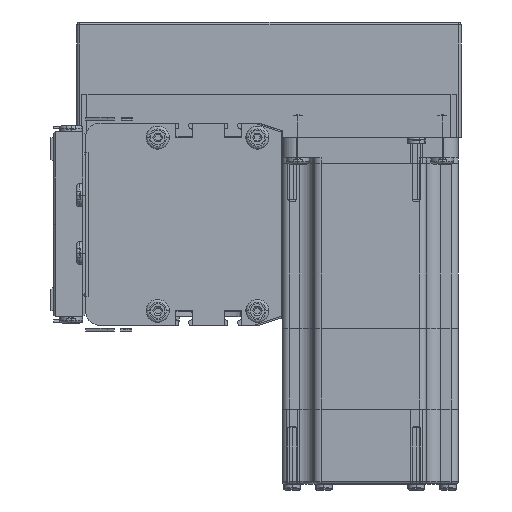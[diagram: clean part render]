
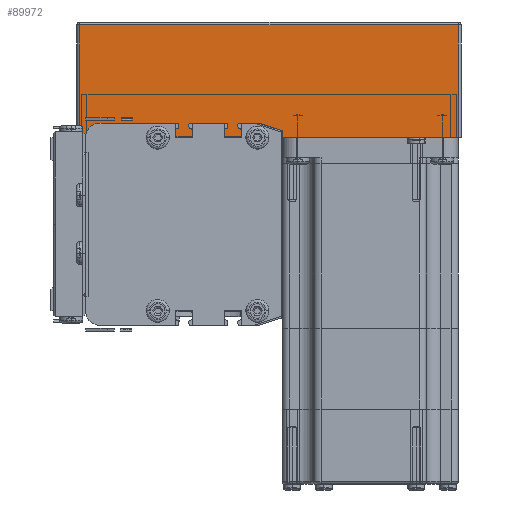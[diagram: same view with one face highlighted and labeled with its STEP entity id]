
A CAD part, left-side view. The second image highlights one B-rep face of the part: STEP entity #89972.
In plain terms, the highlighted planar face has unit normal (-1, 0, 0) as drawn and (0, 1, 0) by its records, which use the part's own axes.
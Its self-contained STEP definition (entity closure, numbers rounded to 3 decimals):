
#89364 = EDGE_CURVE ( 'NONE', #89558, #89466, #110685, .T. ) ;
#89466 = VERTEX_POINT ( 'NONE', #111102 ) ;
#89558 = VERTEX_POINT ( 'NONE', #111284 ) ;
#89587 = EDGE_CURVE ( 'NONE', #89466, #89734, #111351, .T. ) ;
#89623 = ORIENTED_EDGE ( 'NONE', *, *, #89364, .T. ) ;
#89630 = ORIENTED_EDGE ( 'NONE', *, *, #89587, .T. ) ;
#89734 = VERTEX_POINT ( 'NONE', #111717 ) ;
#89763 = EDGE_LOOP ( 'NONE', ( #89785, #89974, #89623, #89630 ) ) ;
#89774 = EDGE_CURVE ( 'NONE', #89820, #89558, #111807, .T. ) ;
#89785 = ORIENTED_EDGE ( 'NONE', *, *, #89812, .T. ) ;
#89812 = EDGE_CURVE ( 'NONE', #89734, #89820, #111955, .T. ) ;
#89820 = VERTEX_POINT ( 'NONE', #111949 ) ;
#89972 = ADVANCED_FACE ( 'NONE', ( #112229 ), #112321, .F. ) ;
#89974 = ORIENTED_EDGE ( 'NONE', *, *, #89774, .T. ) ;
#110680 = DIRECTION ( 'NONE',  ( -1., 0., 0. ) ) ;
#110682 = VECTOR ( 'NONE', #110680, 1000. ) ;
#110683 = CARTESIAN_POINT ( 'NONE',  ( 0., 62., 0. ) ) ;
#110685 = LINE ( 'NONE', #110683, #110682 ) ;
#111102 = CARTESIAN_POINT ( 'NONE',  ( 1., 62., 0. ) ) ;
#111284 = CARTESIAN_POINT ( 'NONE',  ( 132., 62., 0. ) ) ;
#111351 = LINE ( 'NONE', #111486, #111459 ) ;
#111459 = VECTOR ( 'NONE', #111483, 1000. ) ;
#111483 = DIRECTION ( 'NONE',  ( 0., 0., 1. ) ) ;
#111486 = CARTESIAN_POINT ( 'NONE',  ( 1., 62., 40. ) ) ;
#111717 = CARTESIAN_POINT ( 'NONE',  ( 1., 62., 39. ) ) ;
#111806 = CARTESIAN_POINT ( 'NONE',  ( 132., 62., 40. ) ) ;
#111807 = LINE ( 'NONE', #111806, #111889 ) ;
#111888 = DIRECTION ( 'NONE',  ( 0., 0., -1. ) ) ;
#111889 = VECTOR ( 'NONE', #111888, 1000. ) ;
#111940 = DIRECTION ( 'NONE',  ( 1., 0., 0. ) ) ;
#111941 = VECTOR ( 'NONE', #111940, 1000. ) ;
#111944 = CARTESIAN_POINT ( 'NONE',  ( 0., 62., 39. ) ) ;
#111949 = CARTESIAN_POINT ( 'NONE',  ( 132., 62., 39. ) ) ;
#111955 = LINE ( 'NONE', #111944, #111941 ) ;
#112194 = AXIS2_PLACEMENT_3D ( 'NONE', #112312, #112309, #112307 ) ;
#112229 = FACE_OUTER_BOUND ( 'NONE', #89763, .T. ) ;
#112307 = DIRECTION ( 'NONE',  ( 0., 0., -1. ) ) ;
#112309 = DIRECTION ( 'NONE',  ( 0., -1., 0. ) ) ;
#112312 = CARTESIAN_POINT ( 'NONE',  ( 0., 62., 40. ) ) ;
#112321 = PLANE ( 'NONE',  #112194 ) ;
